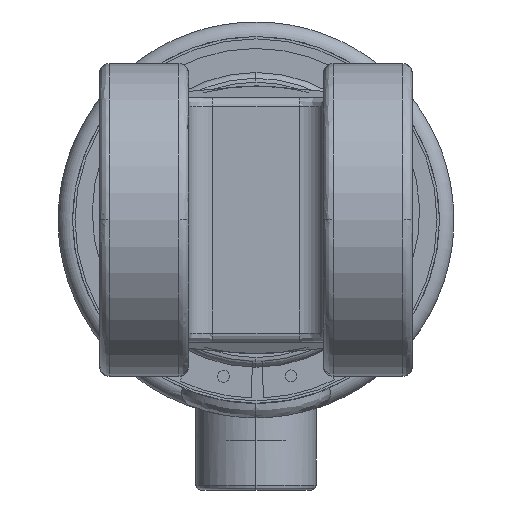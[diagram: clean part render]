
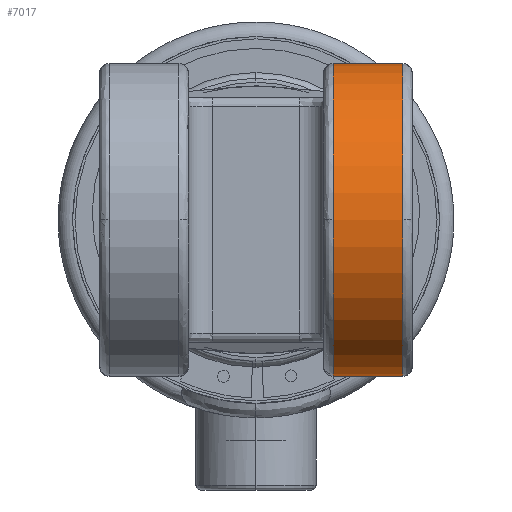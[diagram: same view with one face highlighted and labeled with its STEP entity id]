
A CAD part, left-side view. The second image highlights one B-rep face of the part: STEP entity #7017.
In plain terms, the highlighted cylindrical face has radius 32.5 mm (diameter 65 mm), a partial arc.
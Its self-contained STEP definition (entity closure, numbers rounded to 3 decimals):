
#139 = EDGE_CURVE ( 'NONE', #4191, #4135, #2958, .T. ) ;
#315 = ORIENTED_EDGE ( 'NONE', *, *, #1612, .F. ) ;
#394 = CIRCLE ( 'NONE', #10205, 32.5 ) ;
#410 = AXIS2_PLACEMENT_3D ( 'NONE', #754, #6982, #7886 ) ;
#452 = ORIENTED_EDGE ( 'NONE', *, *, #5817, .F. ) ;
#455 = VERTEX_POINT ( 'NONE', #11162 ) ;
#471 = CARTESIAN_POINT ( 'NONE',  ( 44.795, -30.5, 32.5 ) ) ;
#754 = CARTESIAN_POINT ( 'NONE',  ( 44.795, -30.5, 0. ) ) ;
#996 = DIRECTION ( 'NONE',  ( 0., 1., 0. ) ) ;
#1088 = ORIENTED_EDGE ( 'NONE', *, *, #7060, .T. ) ;
#1369 = EDGE_CURVE ( 'NONE', #2740, #9852, #394, .T. ) ;
#1419 = FACE_OUTER_BOUND ( 'NONE', #8689, .T. ) ;
#1579 = CARTESIAN_POINT ( 'NONE',  ( 44.795, -32.5, 32.5 ) ) ;
#1612 = EDGE_CURVE ( 'NONE', #7127, #2740, #9927, .T. ) ;
#1913 = CARTESIAN_POINT ( 'NONE',  ( 44.795, -32.5, -32.5 ) ) ;
#2473 = ORIENTED_EDGE ( 'NONE', *, *, #1369, .F. ) ;
#2531 = VECTOR ( 'NONE', #6781, 1000. ) ;
#2607 = AXIS2_PLACEMENT_3D ( 'NONE', #5491, #9715, #6236 ) ;
#2667 = CARTESIAN_POINT ( 'NONE',  ( 44.795, -30.5, 0. ) ) ;
#2740 = VERTEX_POINT ( 'NONE', #3174 ) ;
#2958 = CIRCLE ( 'NONE', #410, 32.5 ) ;
#3018 = CARTESIAN_POINT ( 'NONE',  ( 44.795, -16., 0. ) ) ;
#3174 = CARTESIAN_POINT ( 'NONE',  ( 77.295, -16., 0. ) ) ;
#3441 = ORIENTED_EDGE ( 'NONE', *, *, #139, .T. ) ;
#3541 = DIRECTION ( 'NONE',  ( 0., 0., 1. ) ) ;
#3739 = VECTOR ( 'NONE', #996, 1000. ) ;
#3906 = DIRECTION ( 'NONE',  ( 1., 0., 0. ) ) ;
#4029 = CARTESIAN_POINT ( 'NONE',  ( 44.795, -16., 32.5 ) ) ;
#4135 = VERTEX_POINT ( 'NONE', #6579 ) ;
#4191 = VERTEX_POINT ( 'NONE', #471 ) ;
#4279 = LINE ( 'NONE', #1913, #3739 ) ;
#4832 = LINE ( 'NONE', #1579, #2531 ) ;
#4968 = DIRECTION ( 'NONE',  ( 0., 1., 0. ) ) ;
#5491 = CARTESIAN_POINT ( 'NONE',  ( 44.795, -32.5, 0. ) ) ;
#5817 = EDGE_CURVE ( 'NONE', #4191, #7127, #4832, .T. ) ;
#6236 = DIRECTION ( 'NONE',  ( 0., 0., 1. ) ) ;
#6579 = CARTESIAN_POINT ( 'NONE',  ( 77.295, -30.5, 0. ) ) ;
#6781 = DIRECTION ( 'NONE',  ( 0., 1., 0. ) ) ;
#6931 = EDGE_CURVE ( 'NONE', #4135, #455, #10960, .T. ) ;
#6982 = DIRECTION ( 'NONE',  ( 0., 1., 0. ) ) ;
#7017 = ADVANCED_FACE ( 'NONE', ( #1419 ), #8072, .T. ) ;
#7060 = EDGE_CURVE ( 'NONE', #455, #9852, #4279, .T. ) ;
#7127 = VERTEX_POINT ( 'NONE', #4029 ) ;
#7154 = ORIENTED_EDGE ( 'NONE', *, *, #6931, .T. ) ;
#7886 = DIRECTION ( 'NONE',  ( 0., 0., 1. ) ) ;
#8051 = AXIS2_PLACEMENT_3D ( 'NONE', #2667, #8727, #3541 ) ;
#8072 = CYLINDRICAL_SURFACE ( 'NONE', #2607, 32.5 ) ;
#8689 = EDGE_LOOP ( 'NONE', ( #3441, #7154, #1088, #2473, #315, #452 ) ) ;
#8727 = DIRECTION ( 'NONE',  ( 0., 1., 0. ) ) ;
#9078 = DIRECTION ( 'NONE',  ( 0., 1., 0. ) ) ;
#9346 = AXIS2_PLACEMENT_3D ( 'NONE', #10224, #4968, #11069 ) ;
#9715 = DIRECTION ( 'NONE',  ( 0., 1., 0. ) ) ;
#9852 = VERTEX_POINT ( 'NONE', #10301 ) ;
#9927 = CIRCLE ( 'NONE', #9346, 32.5 ) ;
#10205 = AXIS2_PLACEMENT_3D ( 'NONE', #3018, #9078, #3906 ) ;
#10224 = CARTESIAN_POINT ( 'NONE',  ( 44.795, -16., 0. ) ) ;
#10301 = CARTESIAN_POINT ( 'NONE',  ( 44.795, -16., -32.5 ) ) ;
#10960 = CIRCLE ( 'NONE', #8051, 32.5 ) ;
#11069 = DIRECTION ( 'NONE',  ( 1., 0., 0. ) ) ;
#11162 = CARTESIAN_POINT ( 'NONE',  ( 44.795, -30.5, -32.5 ) ) ;
